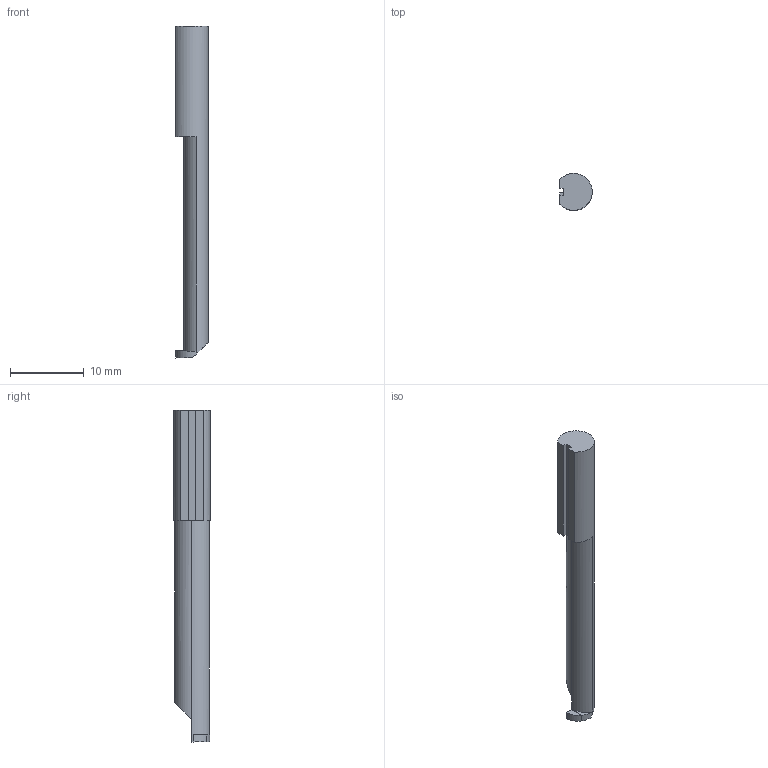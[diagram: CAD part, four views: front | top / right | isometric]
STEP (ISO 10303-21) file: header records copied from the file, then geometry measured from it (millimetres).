
FILE_DESCRIPTION(('CATIA V5 STEP Exchange'),'2;1');
FILE_NAME('I:\isr\design\admin8\users\weaam_s\6402364.L.stp','2012-01-10T12:35:35+00:00',('none'),('none'),'CATIA Version 5 Release 19 SP 7 (IN-10)','CATIA V5 STEP AP214','none');
FILE_SCHEMA(('AUTOMOTIVE_DESIGN { 1 0 10303 214 1 1 1 1 }'));
Length unit declared in the file: millimetre
Products named in the file (1): 60894295_0 Assembly PICCO R 005.0100-30
Bounding box: 4.4 x 5 x 45 mm (x, y, z)
Volume: 582.3 mm3; surface area: 639.7 mm2
Topology: 2 solids, 2 shells, 25 faces, 63 edges, 42 vertices
Faces by surface type: plane 18, cylinder 7
Entity records: 803 total; most frequent: CARTESIAN_POINT 195, ORIENTED_EDGE 126, DIRECTION 100, EDGE_CURVE 63, VECTOR 43, LINE 43, VERTEX_POINT 42, AXIS2_PLACEMENT_3D 34
